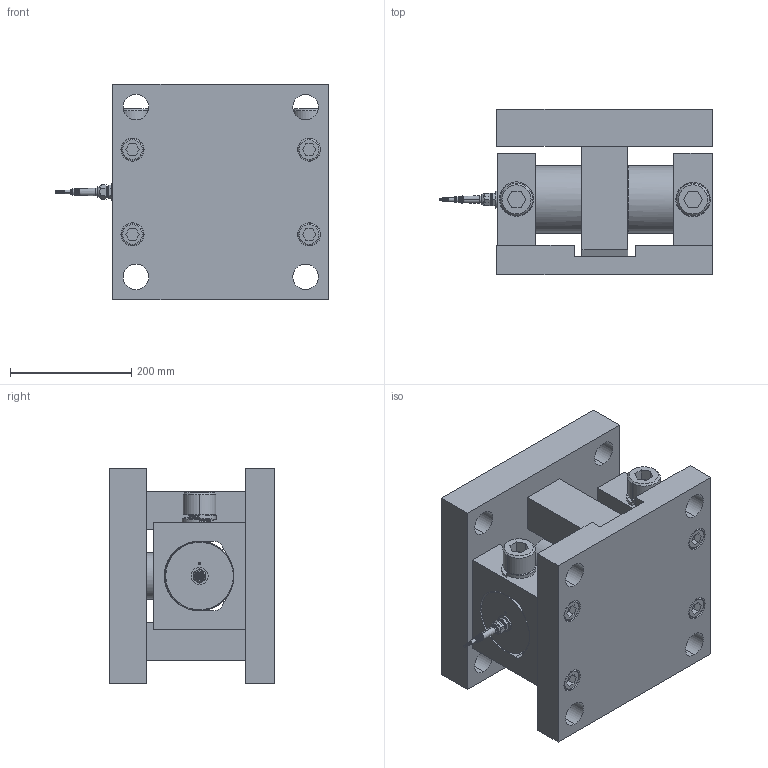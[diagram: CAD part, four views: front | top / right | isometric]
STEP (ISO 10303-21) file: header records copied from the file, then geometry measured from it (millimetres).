
FILE_DESCRIPTION (( 'STEP AP214' ), '1' );
FILE_NAME ('KDH-1A 300 klb Module.STEP', '2021-03-12T12:54:49', ( '' ), ( '' ), 'SwSTEP 2.0', 'SolidWorks 2021', '' );
FILE_SCHEMA (( 'AUTOMOTIVE_DESIGN' ));
Length unit declared in the file: millimetre
Products named in the file (17): Element KDH-3 300000Lb; MC6S M24x50; 502765r1; M26x1.5 - Lock - 600490r1; Kabel; 502761r1; 502763r1; KDH-3 300000Lb; M26x1.5 - Pg9 - 6369829; Spring washer M36; 502764r1; MC6S M36x70; Pg9 - 1009.52 6_2_14; KDH-1A 300 klb Module; 502762r1; 502760r1; MC6S M12x55
Assembly tree (24 placements, depth 3):
  KDH-1A 300 klb Module
    502760r1
    502761r1  x2
    502764r1
    502765r1
    502763r1  x2
    502762r1
    KDH-3 300000Lb
      Element KDH-3 300000Lb
      M26x1.5 - Pg9 - 6369829
      Pg9 - 1009.52 6_2_14
      Kabel
      M26x1.5 - Lock - 600490r1
    Spring washer M36  x2
    MC6S M12x55  x2
    MC6S M36x70  x2
    MC6S M24x50  x4
Bounding box: 450.31 x 272.56 x 355.6 mm (x, y, z)
Volume: 20349186.4 mm3; surface area: 1448683.5 mm2
Topology: 23 solids, 26 shells, 2112 faces, 4639 edges, 2618 vertices
Faces by surface type: cone 669, torus 642, cylinder 536, plane 219, bspline 46
Entity records: 38770 total; most frequent: CARTESIAN_POINT 12703, DIRECTION 5759, ORIENTED_EDGE 4788, AXIS2_PLACEMENT_3D 2471, EDGE_CURVE 2394, CIRCLE 1410, VERTEX_POINT 1405, EDGE_LOOP 1163
